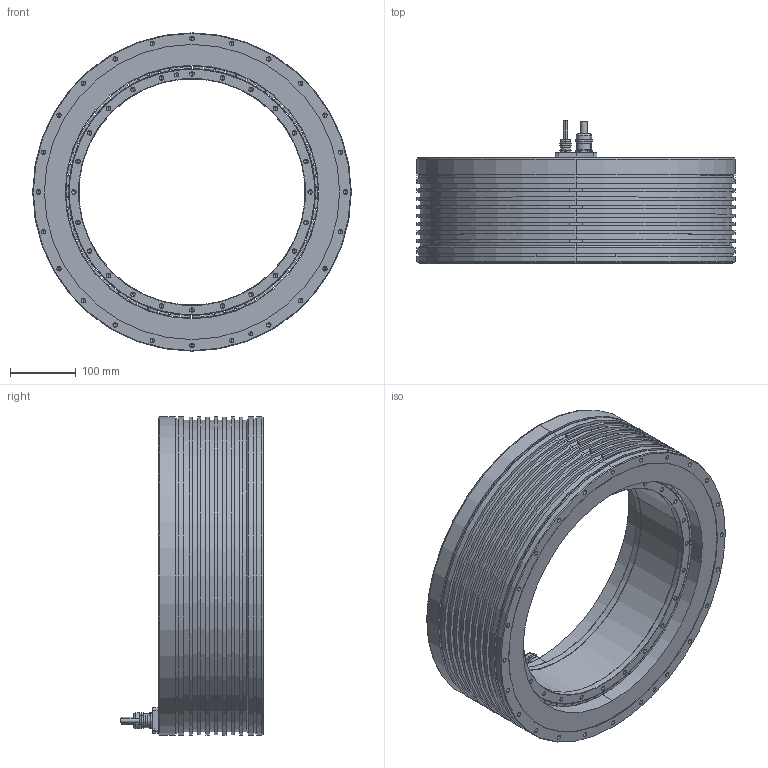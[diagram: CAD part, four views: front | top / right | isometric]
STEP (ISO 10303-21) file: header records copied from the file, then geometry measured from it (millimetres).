
FILE_DESCRIPTION (( 'STEP AP214' ), '1' );
FILE_NAME ('TORQUE KIT QMT LA 485-160-I-AX.STEP', '2025-10-03T09:21:26', ( '' ), ( '' ), 'SwSTEP 2.0', 'SolidWorks 2023', '' );
FILE_SCHEMA (( 'AUTOMOTIVE_DESIGN' ));
Length unit declared in the file: millimetre
Products named in the file (21): Stator; Rotor Ring; Cable Gland; Cable Connection; Resin; Cable Clamp; TORQUE KIT QMT LA 485-160-I-AX; Cable; Rotor; Screw; Magnet; Rotor Glued; Cooling Ring; Housing; Housing-BO
Assembly tree (160 placements, depth 6):
  TORQUE KIT QMT LA 485-160-I-AX
    Stator
      Stator
        Housing
          Housing-BO
            Cooling Ring
        Cable Connection
          Cable Connection
          Cable
          Cable
        Resin
      Cable Clamp
        Cable Clamp
        Cable Gland
        Cable Gland
      Screw  x3
    Rotor
      Rotor Glued
        Rotor Ring
        Magnet  x70
        Magnet  x70
Bounding box: 485 x 217.1 x 485 mm (x, y, z)
Volume: 12285417.3 mm3; surface area: 1765834.4 mm2
Topology: 152 solids, 152 shells, 5385 faces, 12199 edges, 6510 vertices
Faces by surface type: cylinder 2295, sphere 1400, plane 790, torus 590, cone 310
Entity records: 39874 total; most frequent: DIRECTION 5841, CARTESIAN_POINT 5629, ORIENTED_EDGE 4674, AXIS2_PLACEMENT_3D 2408, EDGE_CURVE 2337, VERTEX_POINT 1468, EDGE_LOOP 1249, CIRCLE 1184
